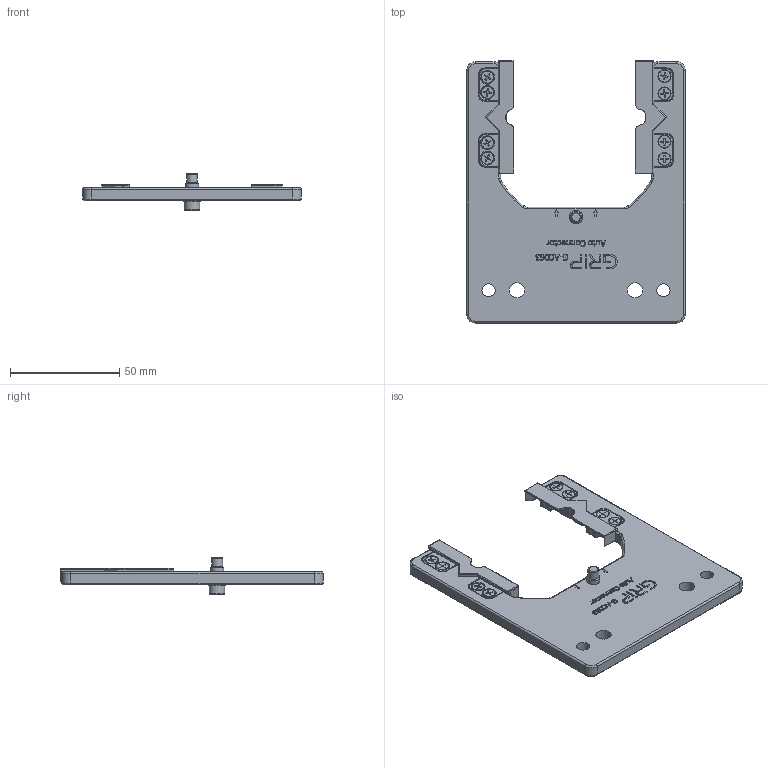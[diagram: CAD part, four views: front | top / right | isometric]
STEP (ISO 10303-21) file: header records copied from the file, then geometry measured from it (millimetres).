
FILE_DESCRIPTION(/* description */ (''),/* implementation_level */ '2;1');
FILE_NAME(/* name */ 'T:\CAD\Neuentwicklungen\G-AC063 Auto Connector\G-AC063-A1-01_LT.stp',/* time_stamp */ '2021-07-15T10:42:53+02:00',/* author */ ('vbednarz'),/* organization */ (''),/* preprocessor_version */ 'ST-DEVELOPER v17',/* originating_system */ 'Autodesk Inventor 2018',/* authorisation */ '');
FILE_SCHEMA (('CONFIG_CONTROL_DESIGN'));
Length unit declared in the file: millimetre
Products named in the file (1): G-AC063-A1-01_LT
Bounding box: 100 x 119.94 x 17.1 mm (x, y, z)
Volume: 46679 mm3; surface area: 21862.6 mm2
Topology: 3 solids, 3 shells, 1078 faces, 2799 edges, 1800 vertices
Faces by surface type: plane 425, cylinder 237, bspline 210, cone 98, torus 90, sphere 18
Full cylindrical faces by diameter (mm): 5 x1, 5.5 x8, 6 x1, 6.02 x3, 7 x3, 8 x1
Entity records: 39919 total; most frequent: CARTESIAN_POINT 13359, ORIENTED_EDGE 5588, DIRECTION 4825, EDGE_CURVE 2794, VERTEX_POINT 1800, AXIS2_PLACEMENT_3D 1663, LINE 1499, VECTOR 1499
